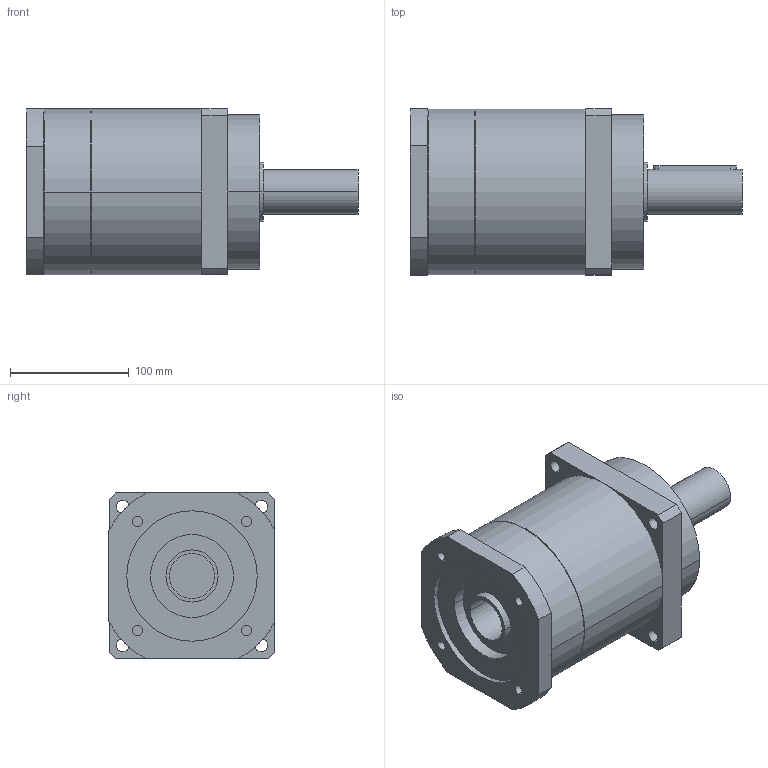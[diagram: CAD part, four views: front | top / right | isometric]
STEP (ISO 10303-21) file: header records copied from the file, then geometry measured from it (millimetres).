
FILE_DESCRIPTION(('CoCreate Modeling STEP Export'),'2;1');
FILE_NAME('GPR150_ig-3-4-5-7_38_B5_38_P04.stp','2014-08-19T16:43:27',(''),(''),'CoCreate Modeling STEP processor for AP214 (Solid Model)','CoCreate Modeling 16.00C 25-Feb-2009 (C) Parametric Technology GmbH','');
FILE_SCHEMA(('AUTOMOTIVE_DESIGN { 1 0 10303 214 1 1 1 1 }'));
Length unit declared in the file: millimetre
Products named in the file (2): GPR150_ig-3-4-5-7_38_B5_38_P04
Assembly tree (1 placements, depth 2):
  GPR150_ig-3-4-5-7_38_B5_38_P04
    GPR150_ig-3-4-5-7_38_B5_38_P04
Bounding box: 280 x 140 x 140 mm (x, y, z)
Volume: 3030322.4 mm3; surface area: 163672.2 mm2
Topology: 1 solids, 1 shells, 94 faces, 257 edges, 173 vertices
Faces by surface type: cylinder 54, plane 34, cone 6
Entity records: 2628 total; most frequent: ORIENTED_EDGE 510, CARTESIAN_POINT 477, DIRECTION 370, EDGE_CURVE 255, VERTEX_POINT 173, AXIS2_PLACEMENT_3D 138, EDGE_LOOP 120, VECTOR 94
